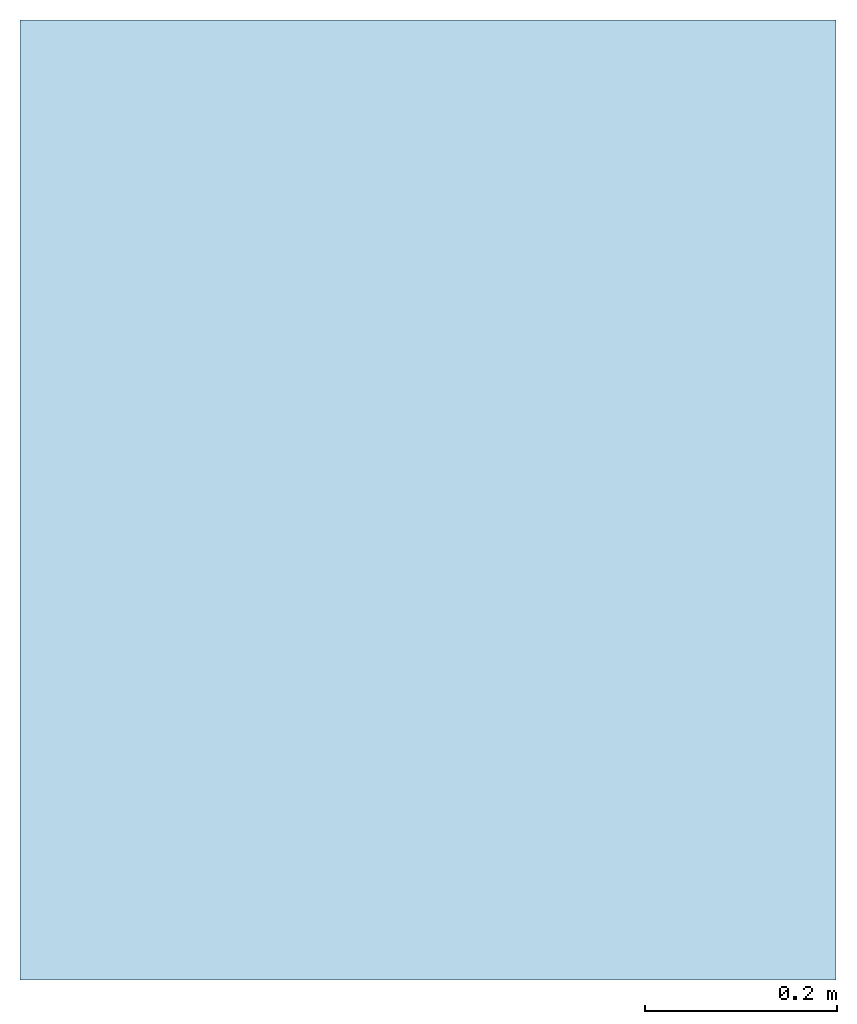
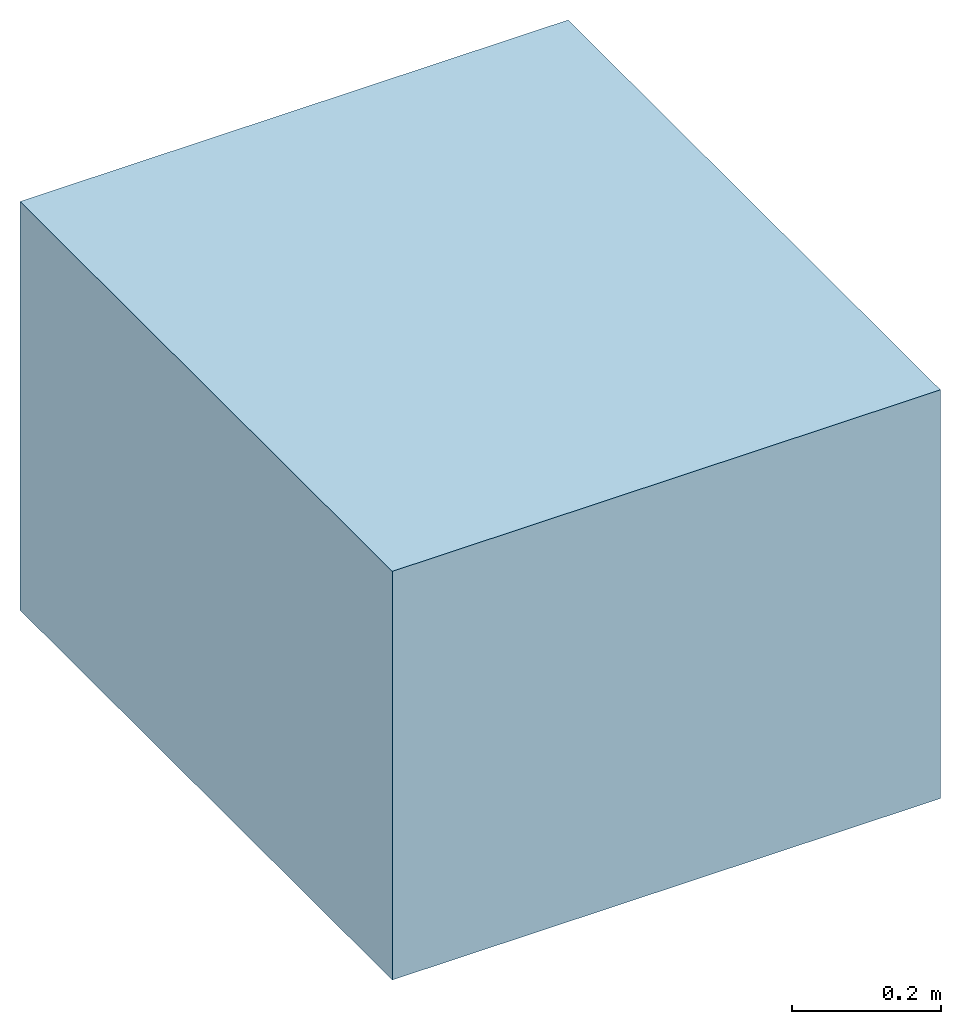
# One storey: 1 slab.
"""IFC4 building model written with IfcOpenShell, lengths in metres."""

from ifc_helpers import new_model, entity, si_unit, converted_unit, direction, frame, frame_2d, origin, place, context, subcontext, project, spatial, rectangle, extrude, material, type_object, element, save


model = new_model("IFC4")

# Units and contexts
model_context = context("Model", 3, precision=1e-05, world=origin(), true_north=direction((6.123031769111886e-17, 1.0)))
body_context = subcontext(model_context, "Body", "Model", "MODEL_VIEW")
ifc_project = project(units=[si_unit("LENGTHUNIT", "METRE"), converted_unit("PLANEANGLEUNIT", "DEGREE", entity("IfcPlaneAngleMeasure", 0.017453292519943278), si_unit("PLANEANGLEUNIT", "RADIAN"), dimensions=[0, 0, 0, 0, 0, 0, 0]), si_unit("AREAUNIT", "SQUARE_METRE")], contexts=[model_context])

# Site, building, storey
site_placement = place(None, origin())
site = spatial("IfcSite", under=ifc_project, at=site_placement, Name="Default", CompositionType="ELEMENT")
building_placement = place(site_placement, origin())
building = spatial("IfcBuilding", under=site, at=building_placement, CompositionType="ELEMENT")
storey_placement = place(building_placement, origin())
storey = spatial("IfcBuildingStorey", under=building, at=storey_placement, Name="Ebene 0", CompositionType="ELEMENT", Elevation=0.0)

# Slab
ifc_material = material(Name="DB_Magerbeton", Category="DB_Beton")
slab_type = type_object("IfcSlabType", Name="DB_BSK_76_Fundament_variabel:DB_BSK_76_Fundament_variabel", PredefinedType="BASESLAB", material=ifc_material)
slab_placement = place(storey_placement, origin())
element("IfcSlab", 1, at=slab_placement, inside=storey, type_object=slab_type, Name="DB_BSK_76_Fundament_variabel:DB_BSK_76_Fundament_variabel", ObjectType="DB_BSK_76_Fundament_variabel:DB_BSK_76_Fundament_variabel", PredefinedType="BASESLAB", context=body_context, shape_type="SweptSolid", body=[
    extrude(rectangle(XDim=0.8500000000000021, YDim=0.9999999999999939, at=frame_2d((-5.273559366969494e-16, -3.608224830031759e-16), x_axis=(1.0, 0.0))), frame((0.31438990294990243, 0.4999999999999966, -1.6549999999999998), z_axis=(0.0, 0.0, 1.0), x_axis=(-1.0, 0.0, 0.0)), (0.0, 0.0, 1.0), 0.12000000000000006),
    extrude(rectangle(XDim=0.850000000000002, YDim=0.9999999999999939, at=frame_2d((-8.881784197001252e-16, -3.608224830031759e-16), x_axis=(1.0, 0.0))), frame((0.31438990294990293, 0.4999999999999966, -1.5349999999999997), z_axis=(0.0, 0.0, 1.0), x_axis=(-1.0, 0.0, 0.0)), (0.0, 0.0, 1.0), 0.55),
])

save(model, "model.ifc")
